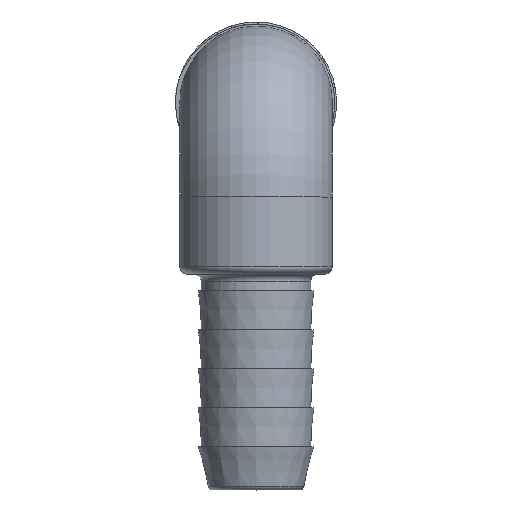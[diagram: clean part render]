
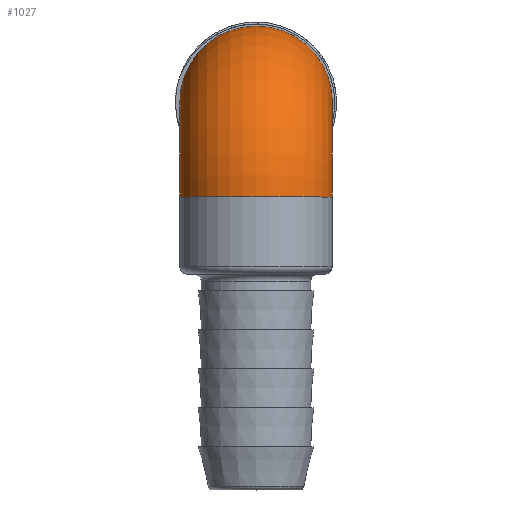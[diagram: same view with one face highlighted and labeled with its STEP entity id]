
A CAD part, top view. The second image highlights one B-rep face of the part: STEP entity #1027.
In plain terms, the highlighted toroidal (fillet/blend) face has major radius 15.621 mm and minor radius 12.573 mm.
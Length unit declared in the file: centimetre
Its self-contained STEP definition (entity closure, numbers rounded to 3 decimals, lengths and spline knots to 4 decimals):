
#283=VERTEX_POINT('',#1340);
#367=VERTEX_POINT('',#23416);
#377=CIRCLE('',#1042,1.2573);
#404=CIRCLE('',#1115,1.2573);
#414=EDGE_CURVE('',#283,#283,#377,.T.);
#533=EDGE_CURVE('',#367,#367,#404,.T.);
#790=ORIENTED_EDGE('',*,*,#414,.T.);
#791=ORIENTED_EDGE('',*,*,#533,.T.);
#877=EDGE_LOOP('',(#790));
#878=EDGE_LOOP('',(#791));
#964=FACE_BOUND('',#877,.T.);
#965=FACE_BOUND('',#878,.T.);
#1027=ADVANCED_FACE('',(#964,#965),#23428,.T.);
#1042=AXIS2_PLACEMENT_3D('',#1339,#1144,#1145);
#1115=AXIS2_PLACEMENT_3D('',#23415,#1307,#1308);
#1120=AXIS2_PLACEMENT_3D('',#23423,#1317,$);
#1144=DIRECTION('',(0.,1.,0.));
#1145=DIRECTION('',(1.257,0.,0.));
#1307=DIRECTION('',(0.,0.,1.));
#1308=DIRECTION('',(1.257,0.,0.));
#1317=DIRECTION('',(1.,0.,0.));
#1339=CARTESIAN_POINT('',(0.,-1.5621,1.5621));
#1340=CARTESIAN_POINT('',(1.2573,-1.5621,1.5621));
#23415=CARTESIAN_POINT('',(0.,0.,0.));
#23416=CARTESIAN_POINT('',(1.2573,0.,0.));
#23423=CARTESIAN_POINT('',(0.,-1.5621,0.));
#23428=TOROIDAL_SURFACE('',#1120,1.5621,1.2573);
